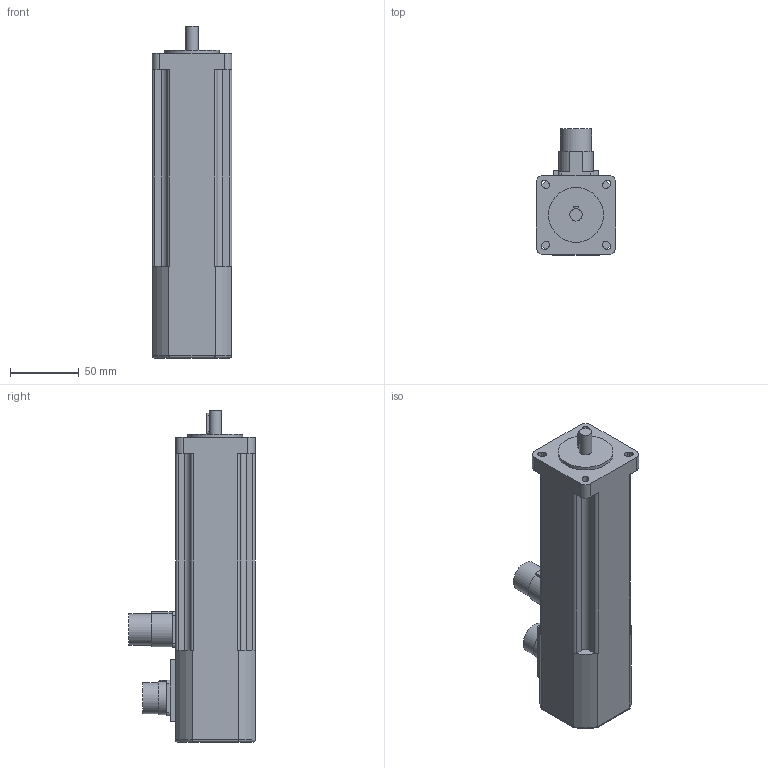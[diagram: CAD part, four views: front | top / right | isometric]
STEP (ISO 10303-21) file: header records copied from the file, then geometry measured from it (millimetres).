
FILE_DESCRIPTION(/* description */ (''),/* implementation_level */ '2;1');
FILE_NAME(/* name */ '\\Lafnas01\disegni\Archivi Lafert\3D\CAD 3D\MODELLI\Assiemi clienti\Serad\Modelli 3D Serad\B28I\Encoder\Enc With Brake\B28D8Ixx4BRx0033.ipt.stp',/* time_stamp */ '2015-09-07T10:47:58+02:00',/* author */ ('Pastrello Ylenia'),/* organization */ (''),/* preprocessor_version */ 'ST-DEVELOPER v15.6',/* originating_system */ 'Autodesk Inventor 2015',/* authorisation */ '');
FILE_SCHEMA (('AUTOMOTIVE_DESIGN { 1 0 10303 214 3 1 1 }'));
Length unit declared in the file: millimetre
Products named in the file (1): B28D8Ixx4BRx0033
Bounding box: 58 x 92 x 242 mm (x, y, z)
Volume: 695682.4 mm3; surface area: 61226 mm2
Topology: 1 solids, 1 shells, 138 faces, 368 edges, 239 vertices
Faces by surface type: plane 76, cylinder 58, torus 4
Full cylindrical faces by diameter (mm): 9 x1, 22.7 x2, 24 x1, 40 x1
Entity records: 4389 total; most frequent: CARTESIAN_POINT 872, DIRECTION 741, ORIENTED_EDGE 720, EDGE_CURVE 359, AXIS2_PLACEMENT_3D 255, VERTEX_POINT 236, LINE 231, VECTOR 231
